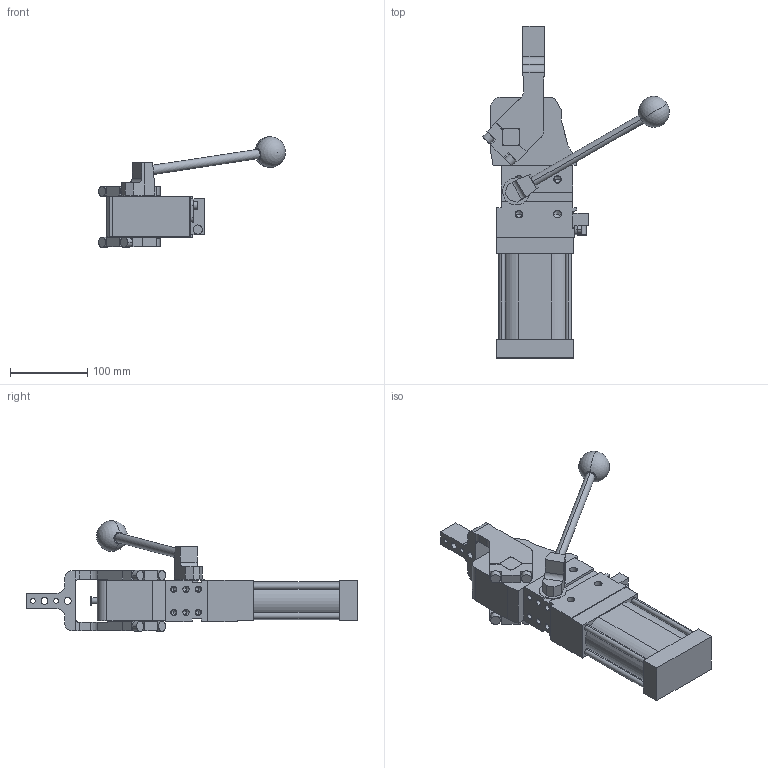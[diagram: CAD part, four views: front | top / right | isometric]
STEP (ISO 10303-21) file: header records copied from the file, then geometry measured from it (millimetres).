
FILE_DESCRIPTION (( 'STEP AP214' ), '1' );
FILE_NAME ('cplm63lah1csi1g_75.STEP', '2023-01-26T14:37:49', ( '' ), ( '' ), 'SwSTEP 2.0', 'SolidWorks 2022', '' );
FILE_SCHEMA (( 'AUTOMOTIVE_DESIGN' ));
Length unit declared in the file: millimetre
Products named in the file (5): comando_manuale_cplm_63; leva_cx_offset_15_cpl63; cplm63lah1csi1g_75; blocchetto_VEP_0; meccanica_cplm_63
Assembly tree (4 placements, depth 2):
  cplm63lah1csi1g_75
    meccanica_cplm_63
    blocchetto_VEP_0
    leva_cx_offset_15_cpl63
    comando_manuale_cplm_63
Bounding box: 242.15 x 430.5 x 143.5 mm (x, y, z)
Volume: 1858154.9 mm3; surface area: 205684.9 mm2
Topology: 4 solids, 4 shells, 430 faces, 1128 edges, 699 vertices
Faces by surface type: plane 217, cylinder 161, cone 50, sphere 2
Entity records: 14525 total; most frequent: DIRECTION 2307, CARTESIAN_POINT 2294, ORIENTED_EDGE 2154, EDGE_CURVE 1077, AXIS2_PLACEMENT_3D 799, LINE 709, VECTOR 709, VERTEX_POINT 696
